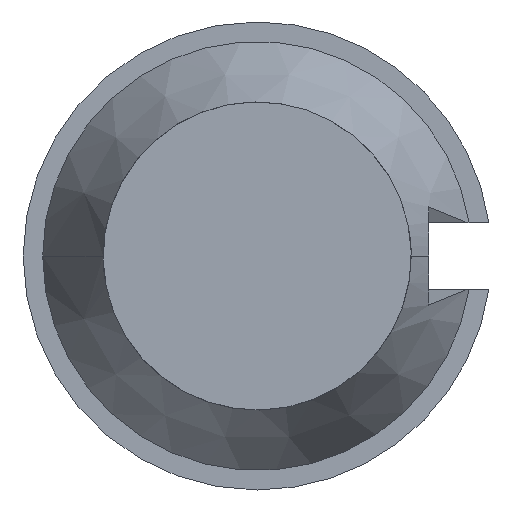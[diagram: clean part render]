
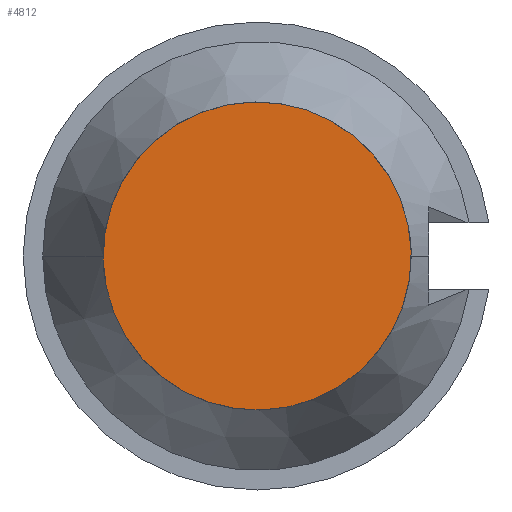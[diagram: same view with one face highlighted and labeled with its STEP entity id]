
A CAD part, front view. The second image highlights one B-rep face of the part: STEP entity #4812.
In plain terms, the highlighted planar face has unit normal (0, -1, 0).
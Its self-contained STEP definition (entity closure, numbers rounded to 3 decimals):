
#1259 = EDGE_LOOP ( 'NONE', ( #1596, #29773 ) ) ;
#1596 = ORIENTED_EDGE ( 'NONE', *, *, #28577, .T. ) ;
#4812 = ADVANCED_FACE ( 'NONE', ( #10627 ), #12947, .T. ) ;
#5646 = CIRCLE ( 'NONE', #12916, 39.5 ) ;
#8414 = AXIS2_PLACEMENT_3D ( 'NONE', #22186, #12015, #27277 ) ;
#9193 = CIRCLE ( 'NONE', #8414, 39.5 ) ;
#10627 = FACE_OUTER_BOUND ( 'NONE', #1259, .T. ) ;
#11229 = CARTESIAN_POINT ( 'NONE',  ( 0., -289., 0. ) ) ;
#12015 = DIRECTION ( 'NONE',  ( 0., -1., 0. ) ) ;
#12916 = AXIS2_PLACEMENT_3D ( 'NONE', #19163, #16445, #32201 ) ;
#12947 = PLANE ( 'NONE',  #29412 ) ;
#15349 = CARTESIAN_POINT ( 'NONE',  ( 38.708, -289., 7.868 ) ) ;
#16445 = DIRECTION ( 'NONE',  ( 0., -1., 0. ) ) ;
#19163 = CARTESIAN_POINT ( 'NONE',  ( 0., -289., 0. ) ) ;
#20010 = CARTESIAN_POINT ( 'NONE',  ( -38.708, -289., -7.868 ) ) ;
#20781 = VERTEX_POINT ( 'NONE', #20010 ) ;
#21529 = DIRECTION ( 'NONE',  ( 0., 0., -1. ) ) ;
#21825 = VERTEX_POINT ( 'NONE', #15349 ) ;
#22186 = CARTESIAN_POINT ( 'NONE',  ( 0., -289., 0. ) ) ;
#27277 = DIRECTION ( 'NONE',  ( 0., 0., -1. ) ) ;
#28577 = EDGE_CURVE ( 'NONE', #20781, #21825, #9193, .T. ) ;
#29412 = AXIS2_PLACEMENT_3D ( 'NONE', #11229, #31670, #21529 ) ;
#29773 = ORIENTED_EDGE ( 'NONE', *, *, #31057, .T. ) ;
#31057 = EDGE_CURVE ( 'NONE', #21825, #20781, #5646, .T. ) ;
#31670 = DIRECTION ( 'NONE',  ( 0., -1., 0. ) ) ;
#32201 = DIRECTION ( 'NONE',  ( 0., 0., -1. ) ) ;
